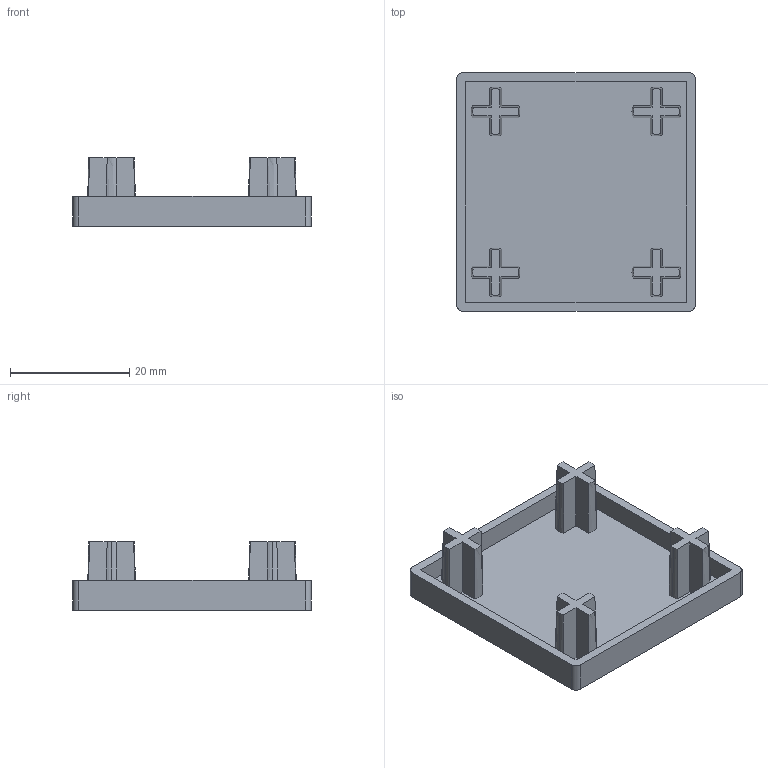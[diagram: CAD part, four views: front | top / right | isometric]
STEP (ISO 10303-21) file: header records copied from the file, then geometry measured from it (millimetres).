
FILE_DESCRIPTION (( 'STEP AP203' ), '1' );
FILE_NAME ('EC4040-8.STEP', '2024-02-19T05:54:04', ( '' ), ( '' ), 'SwSTEP 2.0', 'SolidWorks 2022', '' );
FILE_SCHEMA (( 'CONFIG_CONTROL_DESIGN' ));
Length unit declared in the file: millimetre
Products named in the file (1): EC4040-8
Bounding box: 40 x 40 x 11.5 mm (x, y, z)
Volume: 4174.3 mm3; surface area: 5703.8 mm2
Topology: 1 solids, 1 shells, 71 faces, 192 edges, 128 vertices
Faces by surface type: plane 47, cone 20, cylinder 4
Entity records: 2439 total; most frequent: CARTESIAN_POINT 584, ORIENTED_EDGE 384, DIRECTION 352, EDGE_CURVE 192, VERTEX_POINT 128, AXIS2_PLACEMENT_3D 120, LINE 112, VECTOR 112
